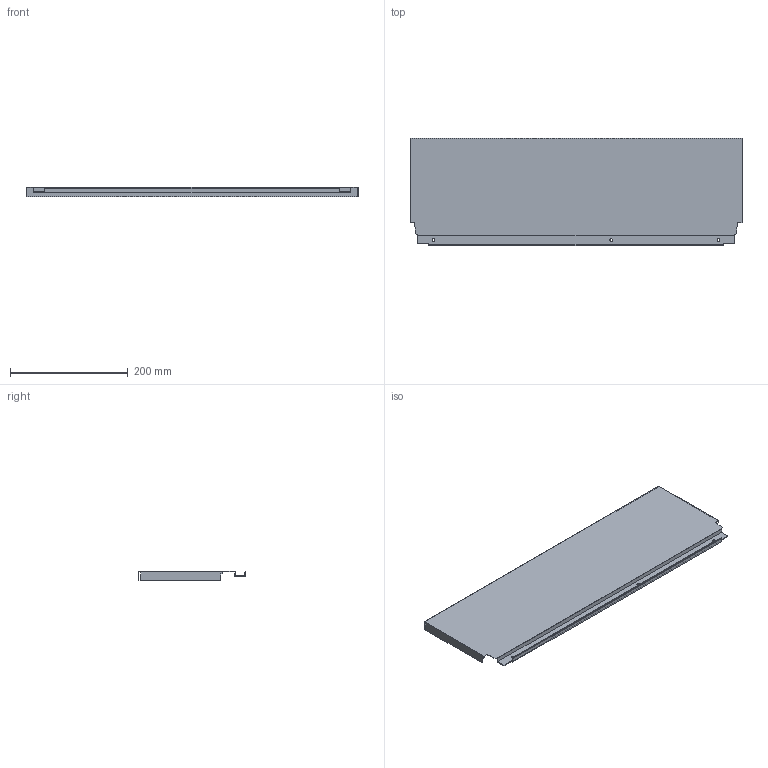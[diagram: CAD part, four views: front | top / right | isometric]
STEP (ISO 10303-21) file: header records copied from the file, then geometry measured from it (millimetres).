
FILE_DESCRIPTION (( 'STEP AP214' ), '1' );
FILE_NAME ('_DWD_XP Stahlrückwand_H182_KAB650_S17.step', '2010-07-08T12:57:45', ( 'grass' ), ( '' ), 'SwSTEP 2.0', 'SolidWorks 2010', '' );
FILE_SCHEMA (( 'AUTOMOTIVE_DESIGN' ));
Length unit declared in the file: millimetre
Products named in the file (1): _DWD_XP Stahlrückwand_H182_KAB650_S17
Bounding box: 565 x 182.49 x 16 mm (x, y, z)
Volume: 106455.3 mm3; surface area: 246827.2 mm2
Topology: 1 solids, 1 shells, 46 faces, 132 edges, 88 vertices
Faces by surface type: plane 40, cylinder 6
Entity records: 1534 total; most frequent: CARTESIAN_POINT 267, ORIENTED_EDGE 264, DIRECTION 238, EDGE_CURVE 132, LINE 120, VECTOR 120, VERTEX_POINT 88, AXIS2_PLACEMENT_3D 59
